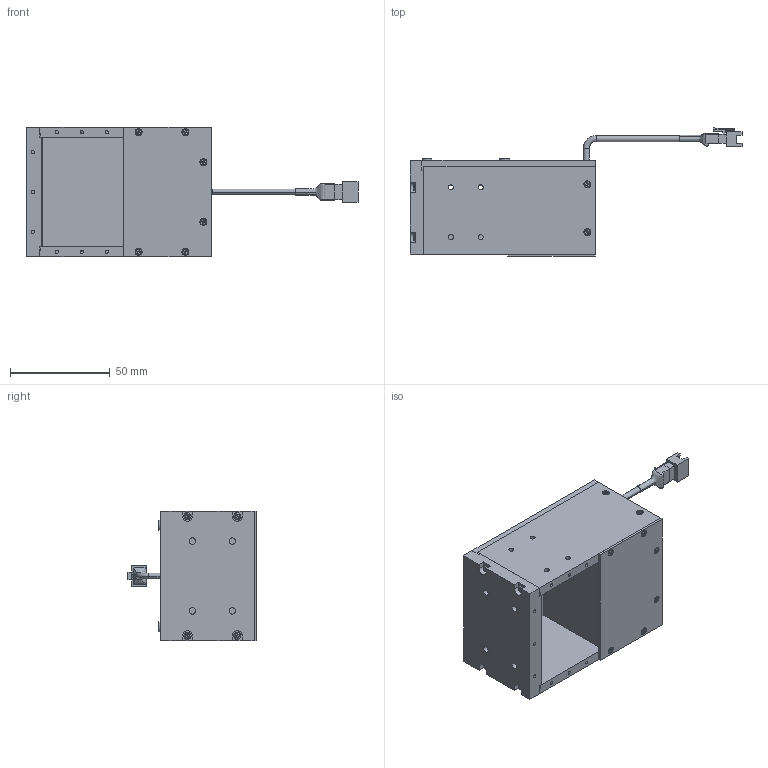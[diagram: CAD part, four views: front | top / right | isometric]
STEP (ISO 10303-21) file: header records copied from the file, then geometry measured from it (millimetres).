
FILE_DESCRIPTION (( 'STEP AP214' ), '1' );
FILE_NAME ('TMEX2010D101A_VCO-5542.STEP', '2023-04-26T05:11:39', ( '' ), ( '' ), 'SwSTEP 2.0', 'SolidWorks 2018', '' );
FILE_SCHEMA (( 'AUTOMOTIVE_DESIGN' ));
Length unit declared in the file: millimetre
Products named in the file (1): TMEX2010D101A_VCO-5542
Bounding box: 166.6 x 64.45 x 65 mm (x, y, z)
Surface area: 44070.2 mm2 (no closed solid volume)
Topology: 0 solids, 44 shells, 682 faces, 2139 edges, 1494 vertices
Faces by surface type: plane 498, cylinder 120, cone 52, torus 10, bspline 2
Entity records: 32055 total; most frequent: CARTESIAN_POINT 5590, DIRECTION 3851, ORIENTED_EDGE 3598, EDGE_CURVE 2135, LINE 1645, VECTOR 1645, VERTEX_POINT 1494, AXIS2_PLACEMENT_3D 1103
